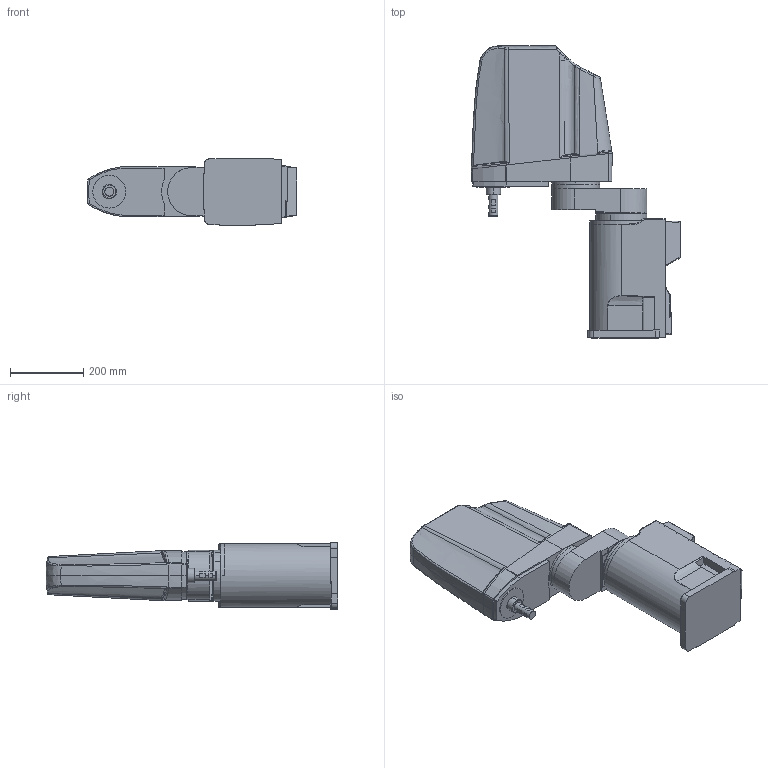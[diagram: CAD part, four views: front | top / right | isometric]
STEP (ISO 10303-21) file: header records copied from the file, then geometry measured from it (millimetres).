
FILE_DESCRIPTION((''),'2;1');
FILE_NAME('RH-6FH3520-3D-ASSY_ASM','2012-02-20T',('LT46891'),(''),'PRO/ENGINEER BY PARAMETRIC TECHNOLOGY CORPORATION, 2010160','PRO/ENGINEER BY PARAMETRIC TECHNOLOGY CORPORATION, 2010160','');
FILE_SCHEMA(('CONFIG_CONTROL_DESIGN'));
Length unit declared in the file: millimetre
Products named in the file (5): RH-3-6FH_BASE; RH-3-6FH_NO1ARM_35; RH-6FH_NO2ARM; RH-6FH_SHAFT; RH-6FH3520-3D-ASSY_ASM
Assembly tree (4 placements, depth 2):
  RH-6FH3520-3D-ASSY_ASM
    RH-3-6FH_BASE
    RH-3-6FH_NO1ARM_35
    RH-6FH_NO2ARM
    RH-6FH_SHAFT
Bounding box: 572 x 798 x 182 mm (x, y, z)
Volume: 27631323 mm3; surface area: 991403.9 mm2
Topology: 4 solids, 4 shells, 486 faces, 1148 edges, 693 vertices
Faces by surface type: bspline 184, plane 128, cylinder 110, extrusion 25, torus 13, sphere 13, cone 13
Entity records: 36427 total; most frequent: CARTESIAN_POINT 26444, ORIENTED_EDGE 2296, DIRECTION 1687, EDGE_CURVE 1148, VERTEX_POINT 693, AXIS2_PLACEMENT_3D 640, EDGE_LOOP 511, FACE_OUTER_BOUND 486
